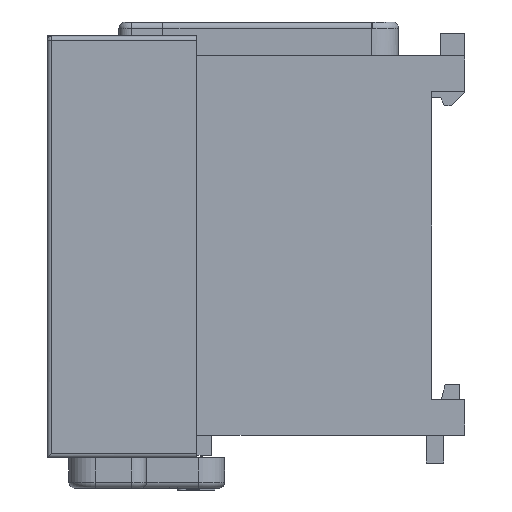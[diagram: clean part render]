
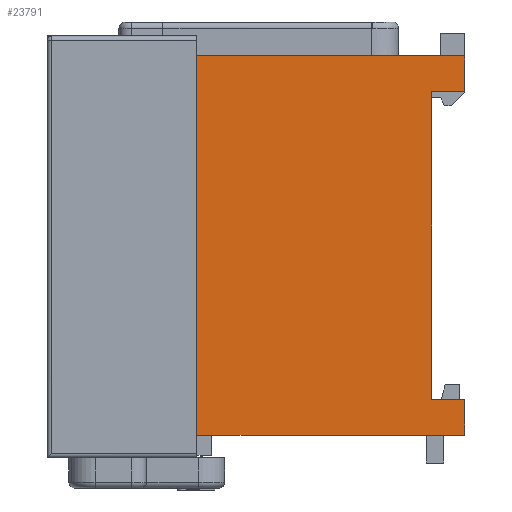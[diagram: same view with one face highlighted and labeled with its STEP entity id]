
A CAD part, left-side view. The second image highlights one B-rep face of the part: STEP entity #23791.
In plain terms, the highlighted planar face has unit normal (-1, 0, 0).
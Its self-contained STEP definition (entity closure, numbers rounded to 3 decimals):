
#373 = LINE ( 'NONE', #14326, #24077 ) ;
#1288 = CARTESIAN_POINT ( 'NONE',  ( -45.15, 0., -21.8 ) ) ;
#1712 = EDGE_CURVE ( 'NONE', #47310, #39444, #373, .T. ) ;
#1820 = LINE ( 'NONE', #24202, #11459 ) ;
#2169 = EDGE_CURVE ( 'NONE', #34166, #59169, #1820, .T. ) ;
#3406 = ORIENTED_EDGE ( 'NONE', *, *, #32140, .F. ) ;
#4805 = VERTEX_POINT ( 'NONE', #51483 ) ;
#5312 = VECTOR ( 'NONE', #16841, 1000. ) ;
#5424 = VERTEX_POINT ( 'NONE', #23061 ) ;
#7397 = CARTESIAN_POINT ( 'NONE',  ( -45.15, 30.8, 21.8 ) ) ;
#8088 = CARTESIAN_POINT ( 'NONE',  ( -45.15, 30.8, 21.8 ) ) ;
#8260 = DIRECTION ( 'NONE',  ( 0., -1., 0. ) ) ;
#8628 = VERTEX_POINT ( 'NONE', #26133 ) ;
#8862 = CARTESIAN_POINT ( 'NONE',  ( -45.15, 30.8, 21.8 ) ) ;
#10755 = DIRECTION ( 'NONE',  ( 0., 0., -1. ) ) ;
#11459 = VECTOR ( 'NONE', #57337, 1000. ) ;
#11601 = CARTESIAN_POINT ( 'NONE',  ( -45.15, 30.8, 21.8 ) ) ;
#13122 = LINE ( 'NONE', #41340, #50853 ) ;
#13615 = DIRECTION ( 'NONE',  ( 0., 0., -1. ) ) ;
#13627 = ORIENTED_EDGE ( 'NONE', *, *, #36951, .F. ) ;
#13653 = EDGE_CURVE ( 'NONE', #4805, #8628, #58206, .T. ) ;
#14326 = CARTESIAN_POINT ( 'NONE',  ( -45.15, 0., 21.8 ) ) ;
#14451 = CARTESIAN_POINT ( 'NONE',  ( -45.15, 30.8, -21.8 ) ) ;
#14825 = CARTESIAN_POINT ( 'NONE',  ( -45.15, 0., 17.7 ) ) ;
#16289 = EDGE_CURVE ( 'NONE', #34166, #37102, #37197, .T. ) ;
#16841 = DIRECTION ( 'NONE',  ( 0., 0., 1. ) ) ;
#18861 = EDGE_CURVE ( 'NONE', #47310, #4805, #29627, .T. ) ;
#19613 = DIRECTION ( 'NONE',  ( 0., 1., 0. ) ) ;
#21194 = ORIENTED_EDGE ( 'NONE', *, *, #16289, .F. ) ;
#23061 = CARTESIAN_POINT ( 'NONE',  ( -45.15, 0., -17.7 ) ) ;
#23791 = ADVANCED_FACE ( 'NONE', ( #57651 ), #32419, .F. ) ;
#24077 = VECTOR ( 'NONE', #47600, 1000. ) ;
#24202 = CARTESIAN_POINT ( 'NONE',  ( -45.15, 30.8, -21.8 ) ) ;
#26133 = CARTESIAN_POINT ( 'NONE',  ( -45.15, 3.8, -17.7 ) ) ;
#29627 = LINE ( 'NONE', #47956, #54783 ) ;
#30969 = DIRECTION ( 'NONE',  ( 0., 0., 1. ) ) ;
#32140 = EDGE_CURVE ( 'NONE', #37102, #39444, #46458, .T. ) ;
#32419 = PLANE ( 'NONE',  #32592 ) ;
#32592 = AXIS2_PLACEMENT_3D ( 'NONE', #8862, #41949, #13615 ) ;
#33041 = VECTOR ( 'NONE', #10755, 1000. ) ;
#33896 = VECTOR ( 'NONE', #54203, 1000. ) ;
#34166 = VERTEX_POINT ( 'NONE', #14451 ) ;
#34326 = CARTESIAN_POINT ( 'NONE',  ( -45.15, 3.8, -17.7 ) ) ;
#36429 = ORIENTED_EDGE ( 'NONE', *, *, #1712, .T. ) ;
#36951 = EDGE_CURVE ( 'NONE', #8628, #5424, #13122, .T. ) ;
#37102 = VERTEX_POINT ( 'NONE', #8088 ) ;
#37197 = LINE ( 'NONE', #7397, #49737 ) ;
#39444 = VERTEX_POINT ( 'NONE', #41733 ) ;
#40452 = CARTESIAN_POINT ( 'NONE',  ( -45.15, 0., 21.8 ) ) ;
#41340 = CARTESIAN_POINT ( 'NONE',  ( -45.15, 0., -17.7 ) ) ;
#41733 = CARTESIAN_POINT ( 'NONE',  ( -45.15, 0., 21.8 ) ) ;
#41949 = DIRECTION ( 'NONE',  ( 1., 0., 0. ) ) ;
#42792 = ORIENTED_EDGE ( 'NONE', *, *, #13653, .F. ) ;
#46458 = LINE ( 'NONE', #11601, #33896 ) ;
#47139 = ORIENTED_EDGE ( 'NONE', *, *, #18861, .F. ) ;
#47310 = VERTEX_POINT ( 'NONE', #14825 ) ;
#47593 = EDGE_CURVE ( 'NONE', #59169, #5424, #57148, .T. ) ;
#47600 = DIRECTION ( 'NONE',  ( 0., 0., 1. ) ) ;
#47956 = CARTESIAN_POINT ( 'NONE',  ( -45.15, 3.8, 17.7 ) ) ;
#49323 = ORIENTED_EDGE ( 'NONE', *, *, #47593, .T. ) ;
#49737 = VECTOR ( 'NONE', #30969, 1000. ) ;
#50853 = VECTOR ( 'NONE', #8260, 1000. ) ;
#51483 = CARTESIAN_POINT ( 'NONE',  ( -45.15, 3.8, 17.7 ) ) ;
#54203 = DIRECTION ( 'NONE',  ( 0., -1., 0. ) ) ;
#54211 = ORIENTED_EDGE ( 'NONE', *, *, #2169, .T. ) ;
#54783 = VECTOR ( 'NONE', #19613, 1000. ) ;
#57148 = LINE ( 'NONE', #40452, #5312 ) ;
#57337 = DIRECTION ( 'NONE',  ( 0., -1., 0. ) ) ;
#57651 = FACE_OUTER_BOUND ( 'NONE', #59399, .T. ) ;
#58206 = LINE ( 'NONE', #34326, #33041 ) ;
#59169 = VERTEX_POINT ( 'NONE', #1288 ) ;
#59399 = EDGE_LOOP ( 'NONE', ( #49323, #13627, #42792, #47139, #36429, #3406, #21194, #54211 ) ) ;
